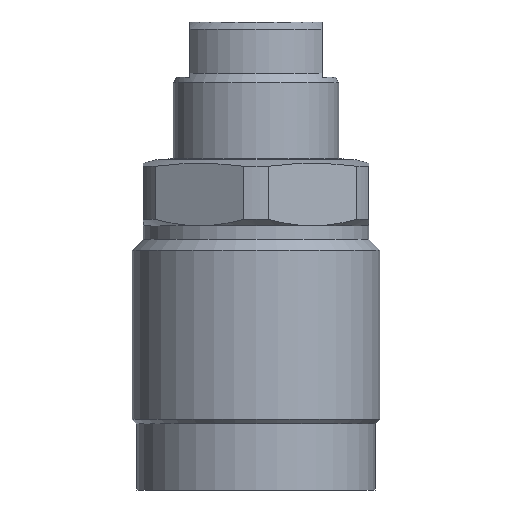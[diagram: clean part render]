
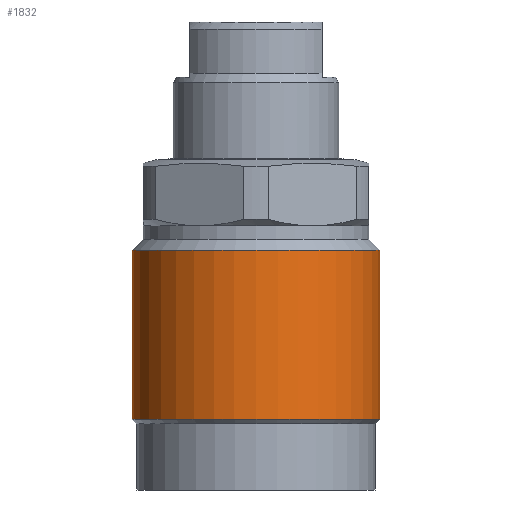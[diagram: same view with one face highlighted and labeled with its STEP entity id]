
A CAD part, front view. The second image highlights one B-rep face of the part: STEP entity #1832.
In plain terms, the highlighted cylindrical face has radius 22.5 mm (diameter 45 mm), a partial arc.
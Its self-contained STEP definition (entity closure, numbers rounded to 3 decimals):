
#113 = VERTEX_POINT ( 'NONE', #1976 ) ;
#115 = VERTEX_POINT ( 'NONE', #1978 ) ;
#118 = VERTEX_POINT ( 'NONE', #1981 ) ;
#120 = VERTEX_POINT ( 'NONE', #1983 ) ;
#185 = EDGE_LOOP ( 'NONE', ( #2376, #2377, #2179, #2368 ) ) ;
#895 = AXIS2_PLACEMENT_3D ( 'NONE', #1356, #1353, #1359 ) ;
#1161 = EDGE_CURVE ( 'NONE', #115, #118, #2528, .T. ) ;
#1162 = EDGE_CURVE ( 'NONE', #120, #113, #2530, .T. ) ;
#1353 = DIRECTION ( 'NONE',  ( 0., 0., 1. ) ) ;
#1355 = FACE_OUTER_BOUND ( 'NONE', #185, .T. ) ;
#1356 = CARTESIAN_POINT ( 'NONE',  ( 0., 0., 5.219 ) ) ;
#1358 = CYLINDRICAL_SURFACE ( 'NONE', #895, 22.5 ) ;
#1359 = DIRECTION ( 'NONE',  ( 1., 0., 0. ) ) ;
#1720 = CARTESIAN_POINT ( 'NONE',  ( -22.5, 0., 5.219 ) ) ;
#1726 = LINE ( 'NONE', #1720, #2181 ) ;
#1730 = DIRECTION ( 'NONE',  ( 0., 0., 1. ) ) ;
#1731 = LINE ( 'NONE', #1732, #2487 ) ;
#1732 = CARTESIAN_POINT ( 'NONE',  ( 22.5, 0., 5.219 ) ) ;
#1733 = DIRECTION ( 'NONE',  ( 0., 0., 1. ) ) ;
#1792 = EDGE_CURVE ( 'NONE', #115, #120, #1726, .T. ) ;
#1793 = EDGE_CURVE ( 'NONE', #118, #113, #1731, .T. ) ;
#1832 = ADVANCED_FACE ( 'NONE', ( #1355 ), #1358, .T. ) ;
#1976 = CARTESIAN_POINT ( 'NONE',  ( 22.5, 0., -16.5 ) ) ;
#1978 = CARTESIAN_POINT ( 'NONE',  ( -22.5, 0., -47.15 ) ) ;
#1981 = CARTESIAN_POINT ( 'NONE',  ( 22.5, 0., -47.15 ) ) ;
#1983 = CARTESIAN_POINT ( 'NONE',  ( -22.5, 0., -16.5 ) ) ;
#2052 = CARTESIAN_POINT ( 'NONE',  ( 0., 0., -47.15 ) ) ;
#2053 = DIRECTION ( 'NONE',  ( 0., 0., 1. ) ) ;
#2054 = DIRECTION ( 'NONE',  ( 1., 0., 0. ) ) ;
#2055 = CARTESIAN_POINT ( 'NONE',  ( 0., 0., -16.5 ) ) ;
#2056 = DIRECTION ( 'NONE',  ( 0., 0., 1. ) ) ;
#2057 = DIRECTION ( 'NONE',  ( 1., 0., 0. ) ) ;
#2179 = ORIENTED_EDGE ( 'NONE', *, *, #1793, .T. ) ;
#2181 = VECTOR ( 'NONE', #1730, 1000. ) ;
#2368 = ORIENTED_EDGE ( 'NONE', *, *, #1162, .F. ) ;
#2376 = ORIENTED_EDGE ( 'NONE', *, *, #1792, .F. ) ;
#2377 = ORIENTED_EDGE ( 'NONE', *, *, #1161, .T. ) ;
#2487 = VECTOR ( 'NONE', #1733, 1000. ) ;
#2528 = CIRCLE ( 'NONE', #2533, 22.5 ) ;
#2530 = CIRCLE ( 'NONE', #2535, 22.5 ) ;
#2533 = AXIS2_PLACEMENT_3D ( 'NONE', #2052, #2053, #2054 ) ;
#2535 = AXIS2_PLACEMENT_3D ( 'NONE', #2055, #2056, #2057 ) ;
